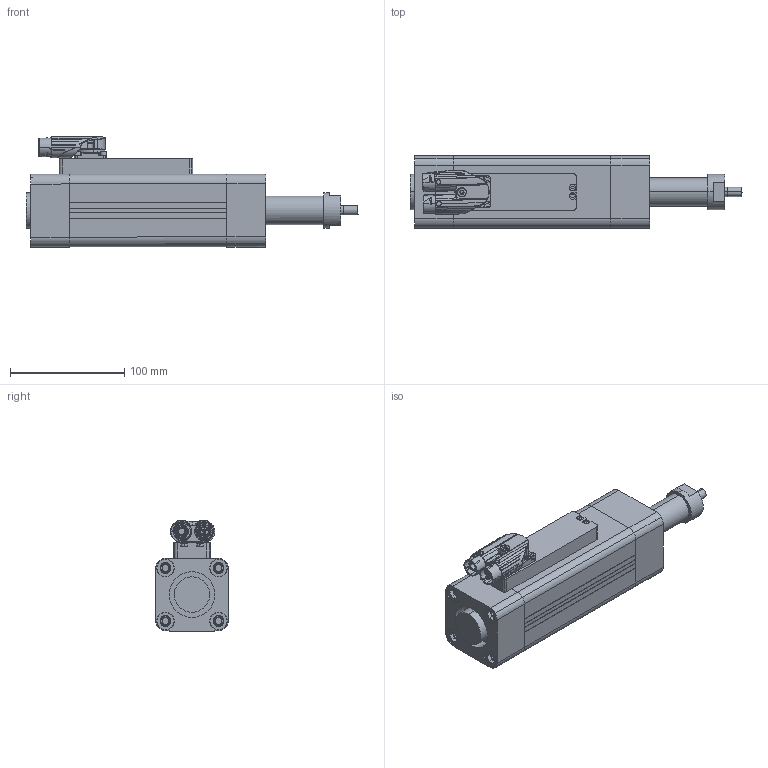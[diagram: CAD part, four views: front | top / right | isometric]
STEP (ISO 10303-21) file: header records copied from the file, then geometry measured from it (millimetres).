
FILE_DESCRIPTION(('STEP AP214'),'1');
FILE_NAME('C:/Users/Autocad/Desktop/ETT50S0160.stp','2013-10-22T15:07:30',(' '),(' '),'Spatial InterOp 3D',' ',' ');
FILE_SCHEMA(('automotive_design'));
Length unit declared in the file: millimetre
Products named in the file (26): ETT50S0160; ETH050.1; TAPPO NORMALE; TAPPO; Scatola; Vite M3 lunga; Connettore a y a blocchi; Pin; Vite; Pallino verde; Pallino arancione; Frutto verde; Frutto arancione; Corpo connettore; Vite M3scheda -tappo; cuscinetto; viti parker; Slider FINTO maschio; riempitivo
Assembly tree (35 placements, depth 3):
  ETT50S0160
    ETH050.1
    TAPPO NORMALE
    TAPPO
    Scatola
    Vite M3 lunga  x4
    Connettore a y a blocchi
      Pin
      Vite
      Pallino verde
      Pallino arancione
      Frutto verde
      Frutto arancione
      Corpo connettore
    Vite M3scheda -tappo  x4
    cuscinetto  x2
    viti parker
    viti parker
    viti parker
    viti parker
    viti parker
    viti parker
    viti parker
    viti parker
    Slider FINTO maschio
    riempitivo  x4
Bounding box: 291.01 x 63.51 x 97.01 mm (x, y, z)
Volume: 720594 mm3; surface area: 233584.3 mm2
Topology: 27 solids, 1870 shells, 2466 faces, 10168 edges, 9614 vertices
Faces by surface type: cylinder 1011, plane 699, bspline 284, torus 262, cone 95, extrusion 68, sphere 47
Entity records: 160147 total; most frequent: CARTESIAN_POINT 59256, DIRECTION 14380, ORIENTED_EDGE 10103, EDGE_CURVE 9270, VERTEX_POINT 8994, AXIS2_PLACEMENT_3D 5505, STYLED_ITEM 3488, PRESENTATION_STYLE_ASSIGNMENT 3488
